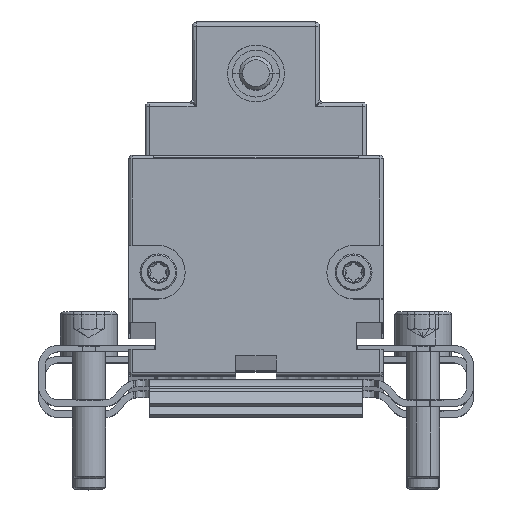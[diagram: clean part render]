
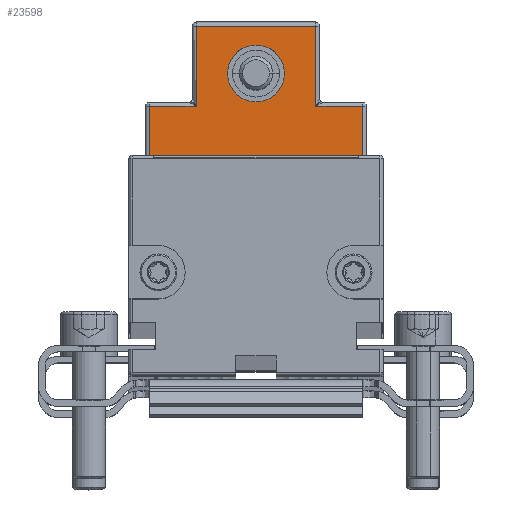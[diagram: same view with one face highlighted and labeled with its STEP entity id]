
A CAD part, top view. The second image highlights one B-rep face of the part: STEP entity #23598.
In plain terms, the highlighted planar face has unit normal (0, 0, 1).
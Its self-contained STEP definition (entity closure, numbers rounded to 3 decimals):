
#4330 = CARTESIAN_POINT ( 'NONE',  ( 0., 43.25, 104.1 ) ) ;
#4438 = CARTESIAN_POINT ( 'NONE',  ( 0., 51.75, 104.1 ) ) ;
#4439 = DIRECTION ( 'NONE',  ( 0., 1., 0. ) ) ;
#4440 = DIRECTION ( 'NONE',  ( 0., 0., 1. ) ) ;
#4441 = CARTESIAN_POINT ( 'NONE',  ( 0., 47.5, 104.1 ) ) ;
#4442 = AXIS2_PLACEMENT_3D ( 'NONE', #4441, #4440, #4439 ) ;
#4443 = CIRCLE ( 'NONE', #4442, 4.25 ) ;
#4461 = CARTESIAN_POINT ( 'NONE',  ( -15.95, 31.2, 104.1 ) ) ;
#4462 = DIRECTION ( 'NONE',  ( -1., 0., 0. ) ) ;
#4463 = VECTOR ( 'NONE', #4462, 1000. ) ;
#4464 = CARTESIAN_POINT ( 'NONE',  ( -15.95, 31.2, 104.1 ) ) ;
#4465 = LINE ( 'NONE', #4464, #4463 ) ;
#4467 = CARTESIAN_POINT ( 'NONE',  ( -9.75, 31.2, 104.1 ) ) ;
#7995 = DIRECTION ( 'NONE',  ( 0., -1., 0. ) ) ;
#7996 = DIRECTION ( 'NONE',  ( 0., 0., -1. ) ) ;
#7997 = CARTESIAN_POINT ( 'NONE',  ( -15.25, 31.3, 104.1 ) ) ;
#7998 = AXIS2_PLACEMENT_3D ( 'NONE', #7997, #7996, #7995 ) ;
#8001 = PLANE ( 'NONE',  #7998 ) ;
#8016 = FACE_OUTER_BOUND ( 'NONE', #23659, .T. ) ;
#8017 = FACE_BOUND ( 'NONE', #23601, .T. ) ;
#8051 = CARTESIAN_POINT ( 'NONE',  ( 9.75, 31.2, 104.1 ) ) ;
#8052 = DIRECTION ( 'NONE',  ( 0., 1., 0. ) ) ;
#8053 = VECTOR ( 'NONE', #8052, 1000. ) ;
#8054 = CARTESIAN_POINT ( 'NONE',  ( 9.75, 31., 104.1 ) ) ;
#8055 = LINE ( 'NONE', #8054, #8053 ) ;
#8081 = DIRECTION ( 'NONE',  ( 0., 1., 0. ) ) ;
#8082 = VECTOR ( 'NONE', #8081, 1000. ) ;
#8083 = CARTESIAN_POINT ( 'NONE',  ( 15.95, 31.3, 104.1 ) ) ;
#8084 = LINE ( 'NONE', #8083, #8082 ) ;
#8086 = CARTESIAN_POINT ( 'NONE',  ( 15.95, 31.2, 104.1 ) ) ;
#8087 = DIRECTION ( 'NONE',  ( -1., 0., 0. ) ) ;
#8098 = VECTOR ( 'NONE', #8087, 1000. ) ;
#8099 = CARTESIAN_POINT ( 'NONE',  ( -15.95, 31.2, 104.1 ) ) ;
#8100 = LINE ( 'NONE', #8099, #8098 ) ;
#8126 = DIRECTION ( 'NONE',  ( -1., 0., 0. ) ) ;
#8127 = VECTOR ( 'NONE', #8126, 1000. ) ;
#8128 = CARTESIAN_POINT ( 'NONE',  ( -15.25, 42.6, 104.1 ) ) ;
#8129 = LINE ( 'NONE', #8128, #8127 ) ;
#8131 = CARTESIAN_POINT ( 'NONE',  ( 15.95, 42.6, 104.1 ) ) ;
#8136 = LINE ( 'NONE', #8141, #8188 ) ;
#8137 = DIRECTION ( 'NONE',  ( 0., 1., 0. ) ) ;
#8138 = DIRECTION ( 'NONE',  ( 0., 0., 1. ) ) ;
#8139 = CARTESIAN_POINT ( 'NONE',  ( 0., 47.5, 104.1 ) ) ;
#8140 = AXIS2_PLACEMENT_3D ( 'NONE', #8139, #8138, #8137 ) ;
#8141 = CARTESIAN_POINT ( 'NONE',  ( -16.55, 42.6, 104.1 ) ) ;
#8146 = CIRCLE ( 'NONE', #8140, 4.25 ) ;
#8185 = CARTESIAN_POINT ( 'NONE',  ( -15.95, 42.6, 104.1 ) ) ;
#8186 = CARTESIAN_POINT ( 'NONE',  ( -8.95, 42.6, 104.1 ) ) ;
#8187 = DIRECTION ( 'NONE',  ( -1., 0., 0. ) ) ;
#8188 = VECTOR ( 'NONE', #8187, 1000. ) ;
#8192 = LINE ( 'NONE', #8250, #8249 ) ;
#8193 = CARTESIAN_POINT ( 'NONE',  ( 8.95, 42.6, 104.1 ) ) ;
#8201 = VECTOR ( 'NONE', #8210, 1000. ) ;
#8210 = DIRECTION ( 'NONE',  ( 0., 1., 0. ) ) ;
#8211 = CARTESIAN_POINT ( 'NONE',  ( -9.75, 31., 104.1 ) ) ;
#8213 = LINE ( 'NONE', #8211, #8201 ) ;
#8215 = DIRECTION ( 'NONE',  ( 0., -1., 0. ) ) ;
#8216 = VECTOR ( 'NONE', #8215, 1000. ) ;
#8218 = CARTESIAN_POINT ( 'NONE',  ( -15.95, 31.3, 104.1 ) ) ;
#8219 = LINE ( 'NONE', #8218, #8216 ) ;
#8233 = CARTESIAN_POINT ( 'NONE',  ( -8.95, 54.6, 104.1 ) ) ;
#8234 = VECTOR ( 'NONE', #8243, 1000. ) ;
#8243 = DIRECTION ( 'NONE',  ( -1., 0., 0. ) ) ;
#8244 = CARTESIAN_POINT ( 'NONE',  ( -15.25, 54.6, 104.1 ) ) ;
#8245 = LINE ( 'NONE', #8244, #8234 ) ;
#8247 = CARTESIAN_POINT ( 'NONE',  ( 8.95, 54.6, 104.1 ) ) ;
#8248 = DIRECTION ( 'NONE',  ( 0., 1., 0. ) ) ;
#8249 = VECTOR ( 'NONE', #8248, 1000. ) ;
#8250 = CARTESIAN_POINT ( 'NONE',  ( 8.95, 55.2, 104.1 ) ) ;
#8268 = DIRECTION ( 'NONE',  ( 0., -1., 0. ) ) ;
#8269 = VECTOR ( 'NONE', #8268, 1000. ) ;
#8270 = CARTESIAN_POINT ( 'NONE',  ( -8.95, 31.3, 104.1 ) ) ;
#8276 = LINE ( 'NONE', #8270, #8269 ) ;
#8281 = CARTESIAN_POINT ( 'NONE',  ( -9.75, 31., 104.1 ) ) ;
#8327 = CARTESIAN_POINT ( 'NONE',  ( 9.75, 31., 104.1 ) ) ;
#8328 = DIRECTION ( 'NONE',  ( -1., 0., 0. ) ) ;
#8329 = VECTOR ( 'NONE', #8328, 1000. ) ;
#8341 = CARTESIAN_POINT ( 'NONE',  ( 9.75, 31., 104.1 ) ) ;
#8342 = LINE ( 'NONE', #8341, #8329 ) ;
#21621 = VERTEX_POINT ( 'NONE', #4330 ) ;
#21690 = EDGE_CURVE ( 'NONE', #21621, #21695, #4443, .T. ) ;
#21695 = VERTEX_POINT ( 'NONE', #4438 ) ;
#21713 = VERTEX_POINT ( 'NONE', #4467 ) ;
#21722 = EDGE_CURVE ( 'NONE', #21713, #21723, #4465, .T. ) ;
#21723 = VERTEX_POINT ( 'NONE', #4461 ) ;
#23598 = ADVANCED_FACE ( 'NONE', ( #8017, #8016 ), #8001, .F. ) ;
#23601 = EDGE_LOOP ( 'NONE', ( #23646, #23653 ) ) ;
#23622 = EDGE_CURVE ( 'NONE', #23763, #23624, #8055, .T. ) ;
#23624 = VERTEX_POINT ( 'NONE', #8051 ) ;
#23627 = ORIENTED_EDGE ( 'NONE', *, *, #23630, .F. ) ;
#23630 = EDGE_CURVE ( 'NONE', #23631, #23624, #8100, .T. ) ;
#23631 = VERTEX_POINT ( 'NONE', #8086 ) ;
#23633 = ORIENTED_EDGE ( 'NONE', *, *, #23636, .T. ) ;
#23636 = EDGE_CURVE ( 'NONE', #23631, #23638, #8084, .T. ) ;
#23638 = VERTEX_POINT ( 'NONE', #8131 ) ;
#23640 = ORIENTED_EDGE ( 'NONE', *, *, #23643, .T. ) ;
#23643 = EDGE_CURVE ( 'NONE', #23638, #23703, #8129, .T. ) ;
#23646 = ORIENTED_EDGE ( 'NONE', *, *, #23651, .F. ) ;
#23651 = EDGE_CURVE ( 'NONE', #21695, #21621, #8146, .T. ) ;
#23653 = ORIENTED_EDGE ( 'NONE', *, *, #21690, .F. ) ;
#23659 = EDGE_LOOP ( 'NONE', ( #23664, #23678, #23685, #23689, #23756, #23767, #23627, #23633, #23640, #23708, #23715, #23724 ) ) ;
#23664 = ORIENTED_EDGE ( 'NONE', *, *, #23666, .T. ) ;
#23666 = EDGE_CURVE ( 'NONE', #23670, #23673, #8136, .T. ) ;
#23670 = VERTEX_POINT ( 'NONE', #8186 ) ;
#23673 = VERTEX_POINT ( 'NONE', #8185 ) ;
#23678 = ORIENTED_EDGE ( 'NONE', *, *, #23683, .T. ) ;
#23683 = EDGE_CURVE ( 'NONE', #23673, #21723, #8219, .T. ) ;
#23685 = ORIENTED_EDGE ( 'NONE', *, *, #21722, .F. ) ;
#23689 = ORIENTED_EDGE ( 'NONE', *, *, #23693, .F. ) ;
#23693 = EDGE_CURVE ( 'NONE', #23754, #21713, #8213, .T. ) ;
#23703 = VERTEX_POINT ( 'NONE', #8193 ) ;
#23708 = ORIENTED_EDGE ( 'NONE', *, *, #23710, .T. ) ;
#23710 = EDGE_CURVE ( 'NONE', #23703, #23712, #8192, .T. ) ;
#23712 = VERTEX_POINT ( 'NONE', #8247 ) ;
#23715 = ORIENTED_EDGE ( 'NONE', *, *, #23716, .T. ) ;
#23716 = EDGE_CURVE ( 'NONE', #23712, #23719, #8245, .T. ) ;
#23719 = VERTEX_POINT ( 'NONE', #8233 ) ;
#23724 = ORIENTED_EDGE ( 'NONE', *, *, #23725, .T. ) ;
#23725 = EDGE_CURVE ( 'NONE', #23719, #23670, #8276, .T. ) ;
#23754 = VERTEX_POINT ( 'NONE', #8281 ) ;
#23756 = ORIENTED_EDGE ( 'NONE', *, *, #23761, .F. ) ;
#23761 = EDGE_CURVE ( 'NONE', #23763, #23754, #8342, .T. ) ;
#23763 = VERTEX_POINT ( 'NONE', #8327 ) ;
#23767 = ORIENTED_EDGE ( 'NONE', *, *, #23622, .T. ) ;
